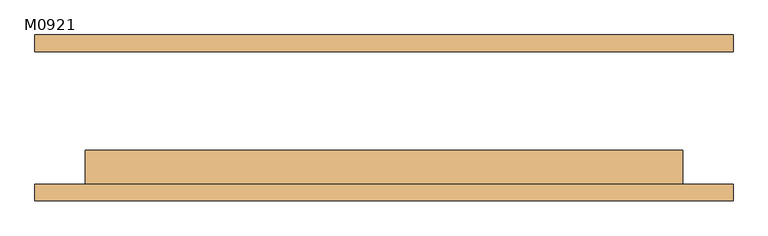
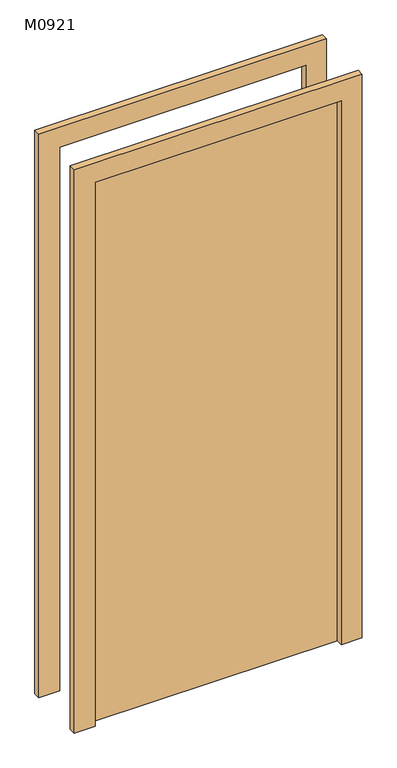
"""IFC4 building model written with IfcOpenShell, lengths in millimetres: door geometry, 单扇 - 与墙齐 : M0921."""

from ifc_helpers import new_model, si_unit, frame, origin, origin_with_axes, place, context, project, spatial, polyline, outline, extrude, source, transform, mapped, element, save


def m0921_bb00f214(model_context):
    return source(origin(), model_context, "Body", "SweptSolid", [
        extrude(outline(polyline([(2176.0, -526.0), (0.0, -526.0), (0.0, -450.0), (2100.0, -450.0), (2100.0, 450.0), (0.0, 450.0), (0.0, 526.0), (2176.0, 526.0), (2176.0, -526.0)])), frame((0.0, -125.0, 0.0), z_axis=(0.0, 1.0, 0.0), x_axis=(0.0, 0.0, 1.0)), (0.0, 0.0, 1.0), 25.0),
        extrude(outline(polyline([(2176.0, 526.0), (2176.0, -526.0), (0.0, -526.0), (0.0, -450.0), (2100.0, -450.0), (2100.0, 450.0), (0.0, 450.0), (0.0, 526.0), (2176.0, 526.0)])), frame((0.0, 100.0, 0.0), z_axis=(0.0, 1.0, 0.0), x_axis=(0.0, 0.0, 1.0)), (0.0, 0.0, 1.0), 25.0),
        extrude(outline(polyline([(450.0, -49.0), (450.0, -100.0), (-450.0, -100.0), (-450.0, -49.0), (450.0, -49.0)])), origin_with_axes(), (0.0, 0.0, 1.0), 2100.0),
    ])


if __name__ == "__main__":
    model = new_model("IFC4")
    model_context = context("Model", 3, world=origin())
    ifc_project = project(units=[si_unit("LENGTHUNIT", "METRE", prefix="MILLI")], contexts=[model_context])
    site = spatial("IfcSite", under=ifc_project)
    building = spatial("IfcBuilding", under=site)
    placement = place(None, origin())
    m0921_shape = m0921_bb00f214(model_context)
    element("IfcDoor", 1, ObjectType="单扇 - 与墙齐 : M0921", at=placement, inside=building, context=model_context, shape_type="MappedRepresentation", body=[
        mapped(m0921_shape, transform((0.0, 0.0, 0.0), x_axis=(1.0, 0.0, 0.0), y_axis=(0.0, 1.0, 0.0), z_axis=(0.0, 0.0, 1.0))),
    ])
    save(model, "model.ifc")
